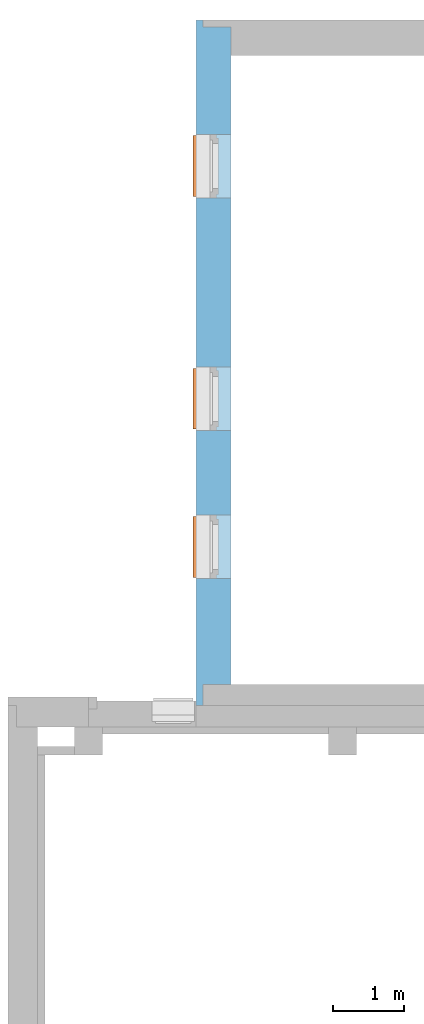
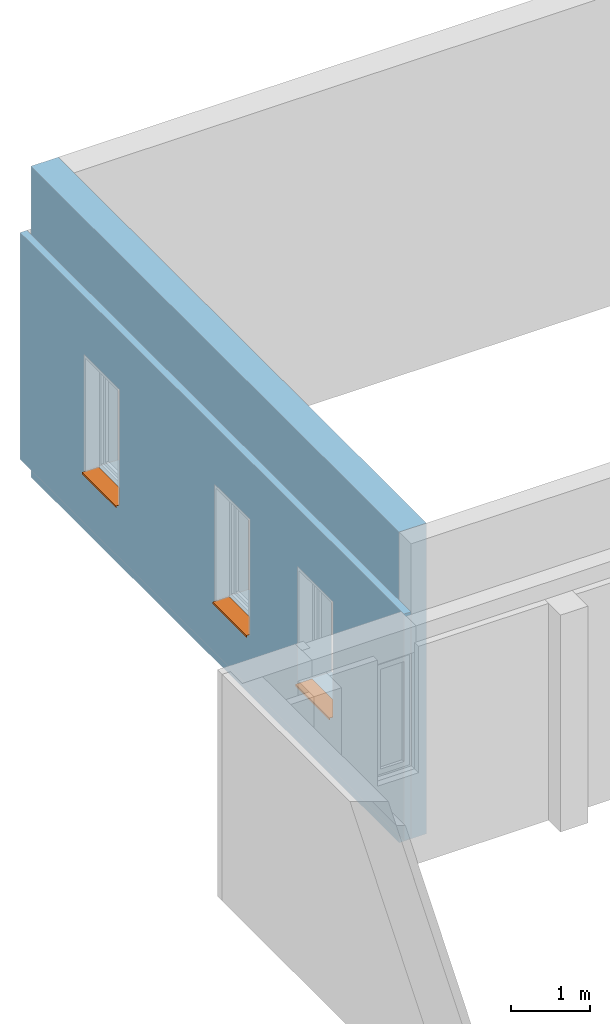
# One storey, part 36 of 37: 3 proxies, 3 openings, plus 1 element that does not belong to this part.
"""IFC4 building model written with IfcOpenShell, lengths in metres."""

from ifc_helpers import new_model, entity, si_unit, converted_unit, derived_unit, frame, origin, origin_with_axes, place, context, subcontext, project, spatial, polyline, outline, extrude, clip, bounded_halfspace, faceted_brep, source, transform, mapped, material, layer, layer_set, layer_usage, element, fill, save


model = new_model("IFC4")

# Units and contexts
model_context = context("Model", 3, precision=1e-05, world=origin())
body_context = subcontext(model_context, "Body", "Model", "MODEL_VIEW")
ifc_project = project(units=[si_unit("LENGTHUNIT", "METRE"), si_unit("AREAUNIT", "SQUARE_METRE"), si_unit("VOLUMEUNIT", "CUBIC_METRE"), si_unit("MASSUNIT", "GRAM", prefix="KILO"), converted_unit("PLANEANGLEUNIT", "DEGREE", entity("IfcPlaneAngleMeasure", 0.0174532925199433), si_unit("PLANEANGLEUNIT", "RADIAN"), dimensions=[0, 0, 0, 0, 0, 0, 0]), derived_unit("THERMALTRANSMITTANCEUNIT", [(si_unit("POWERUNIT", "WATT"), 1), (si_unit("THERMODYNAMICTEMPERATUREUNIT", "KELVIN"), -1), (si_unit("LENGTHUNIT", "METRE"), -2)]), derived_unit("VOLUMETRICFLOWRATEUNIT", [(si_unit("LENGTHUNIT", "METRE"), 3), (converted_unit("TIMEUNIT", "hour", entity("IfcTimeMeasure", 3600.0), si_unit("TIMEUNIT", "SECOND"), dimensions=[0, 0, 1, 0, 0, 0, 0]), -1), (si_unit("LENGTHUNIT", "METRE"), -1)])], contexts=[model_context])

# Site, building, storey
site_placement = place(None, origin())
site = spatial("IfcSite", under=ifc_project, at=site_placement, Name="3. ASŘ", CompositionType="ELEMENT")
building_placement = place(site_placement, origin())
building = spatial("IfcBuilding", under=site, at=building_placement, Name="Pavilon B", CompositionType="ELEMENT")
storey_placement = place(building_placement, origin())
storey = spatial("IfcBuildingStorey", under=building, at=storey_placement, Name="Půdorys 1.NP", CompositionType="ELEMENT", Elevation=0.0)

# Wall, openings, proxies
ifc_material_1 = material(Name="MINERÁLNÍ VATA")
ifc_layer_1 = layer(ifc_material_1, 0.1)
ifc_material_2 = material(Name="STÁVAJÍC KCE")
ifc_layer_2 = layer(ifc_material_2, 0.4)
ifc_layer_set = layer_set([ifc_layer_1, ifc_layer_2])
ifc_layer_usage = layer_usage(ifc_layer_set, "AXIS2", "POSITIVE", -0.1)
wall_placement = place(storey_placement, frame((-2.67999999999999, -5.58, -0.25), z_axis=(0.0, 0.0, 1.0), x_axis=(0.0, -1.0, 0.0)))
wall = element("IfcWall", 1, at=wall_placement, inside=storey, material=ifc_layer_usage, Name="STÁVAJÍCÍ KCE", context=body_context, shape_type="Clipping", body=[
    clip(clip(extrude(outline(polyline([(-9.72, 0.0), (0.0, 0.0), (0.0, 0.1), (-0.299999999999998, 0.1), (-0.299999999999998, 0.5), (-9.62, 0.5), (-9.62, 0.1), (-9.72, 0.1), (-9.72, 0.0)])), frame((9.72, 0.0, 0.0), z_axis=(0.0, 0.0, 1.0), x_axis=(1.0, 0.0, 0.0)), (0.0, 0.0, 1.0), 4.8), bounded_halfspace(frame((4.82666666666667, 0.066666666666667, 0.25), z_axis=(0.0, 0.0, 1.0), x_axis=(-1.0, 0.0, 0.0)), True, origin_with_axes(), polyline([(9.42, 0.1), (0.100000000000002, 0.1), (0.0, 0.1), (0.0, 0.0), (9.72, 0.0), (9.72, 0.1), (9.42, 0.1)]))), bounded_halfspace(frame((4.82666666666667, 0.066666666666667, 3.75), z_axis=(0.0, 0.0, -1.0), x_axis=(1.0, 0.0, 0.0)), True, origin_with_axes(), polyline([(0.0, 0.0), (9.72, 0.0), (9.72, 0.1), (9.42, 0.1), (0.100000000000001, 0.1), (0.0, 0.1), (0.0, 0.0)]))),
])
opening_1_placement = place(wall_placement, frame((7.02, 0.0, 1.05), z_axis=(0.0, 1.0, 0.0), x_axis=(0.0, 0.0, 1.0)))
opening_1 = element("IfcOpeningElement", 2, at=opening_1_placement, cuts=wall, Name="Okenní otvor", ObjectType="Opening", context=body_context, shape_type="SweptSolid", body=[
    extrude(outline(polyline([(0.0, 0.9), (1.8, 0.9), (1.8, 0.0), (0.0, 0.0), (0.0, 0.9)])), origin_with_axes(), (0.0, 0.0, 1.0), 0.1),
    extrude(outline(polyline([(0.0, 0.9), (1.8, 0.9), (1.8, 0.0), (0.0, 0.0), (0.0, 0.9)])), frame((0.0, 0.0, 0.1), z_axis=(0.0, 0.0, 1.0), x_axis=(1.0, 0.0, 0.0)), (0.0, 0.0, 1.0), 0.4),
])
opening_2_placement = place(wall_placement, frame((4.92, 0.0, 1.05), z_axis=(0.0, 1.0, 0.0), x_axis=(0.0, 0.0, 1.0)))
opening_2 = element("IfcOpeningElement", 3, at=opening_2_placement, cuts=wall, Name="Okenní otvor", ObjectType="Opening", context=body_context, shape_type="SweptSolid", body=[
    extrude(outline(polyline([(0.0, 0.9), (1.8, 0.9), (1.8, 0.0), (0.0, 0.0), (0.0, 0.9)])), origin_with_axes(), (0.0, 0.0, 1.0), 0.1),
    extrude(outline(polyline([(0.0, 0.9), (1.8, 0.9), (1.8, 0.0), (0.0, 0.0), (0.0, 0.9)])), frame((0.0, 0.0, 0.1), z_axis=(0.0, 0.0, 1.0), x_axis=(1.0, 0.0, 0.0)), (0.0, 0.0, 1.0), 0.4),
])
opening_3_placement = place(wall_placement, frame((1.62, 0.0, 1.05), z_axis=(0.0, 1.0, 0.0), x_axis=(0.0, 0.0, 1.0)))
opening_3 = element("IfcOpeningElement", 4, at=opening_3_placement, cuts=wall, Name="Okenní otvor", ObjectType="Opening", context=body_context, shape_type="SweptSolid", body=[
    extrude(outline(polyline([(0.0, 0.9), (1.8, 0.9), (1.8, 0.0), (0.0, 0.0), (0.0, 0.9)])), origin_with_axes(), (0.0, 0.0, 1.0), 0.1),
    extrude(outline(polyline([(0.0, 0.9), (1.8, 0.9), (1.8, 0.0), (0.0, 0.0), (0.0, 0.9)])), frame((0.0, 0.0, 0.1), z_axis=(0.0, 0.0, 1.0), x_axis=(1.0, 0.0, 0.0)), (0.0, 0.0, 1.0), 0.4),
])
ifc_material_3 = material(Name="PLECH")
shared_shape_1 = source(origin_with_axes(), body_context, "Body", "Brep", [
    faceted_brep([(0.0399999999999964, 4.54747350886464e-16, 0.0), (0.0399999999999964, 0.2, 0.0), (0.0399999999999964, 0.2, 0.005), (0.0399999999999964, 4.54747350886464e-16, 0.005), (0.859999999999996, 4.54747350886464e-16, 0.0), (0.859999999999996, 4.54747350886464e-16, 0.005), (0.859999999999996, 0.200000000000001, 0.005), (0.859999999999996, 0.200000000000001, 0.0), (0.0199999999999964, 4.54747350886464e-16, 0.0), (0.0199999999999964, -0.0349999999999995, 0.0), (0.879999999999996, -0.0349999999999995, 0.0), (0.879999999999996, 4.54747350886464e-16, 0.0), (0.879999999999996, 4.54747350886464e-16, 0.005), (0.879999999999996, -0.0399999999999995, 0.005), (0.0199999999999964, -0.0399999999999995, 0.005), (0.0199999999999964, 4.54747350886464e-16, 0.005), (0.0199999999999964, -0.0399999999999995, -0.025), (0.0199999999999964, -0.0349999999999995, -0.025), (0.879999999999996, -0.0349999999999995, -0.025), (0.879999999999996, -0.0399999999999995, -0.025)], [[[0, 1, 2, 3]], [[4, 5, 6, 7]], [[1, 0, 8, 9, 10, 11, 4, 7]], [[2, 1, 7, 6]], [[3, 2, 6, 5, 12, 13, 14, 15]], [[8, 15, 14, 16, 17, 9]], [[11, 10, 18, 19, 13, 12]], [[15, 8, 0, 3]], [[5, 4, 11, 12]], [[16, 14, 13, 19]], [[17, 16, 19, 18]], [[9, 17, 18, 10]]], orient=[[False], [False], [False], [False], [False], [False], [False], [False], [False], [False], [False], [False]]),
    faceted_brep([(0.0199999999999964, 4.54747350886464e-16, 0.0), (0.0199999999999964, 0.2, 0.0), (0.0199999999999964, 0.2, 0.005), (0.0199999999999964, 4.54747350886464e-16, 0.005), (0.0399999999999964, 4.54747350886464e-16, 0.0), (0.0399999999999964, 4.54747350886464e-16, 0.005), (0.0399999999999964, 0.2, 0.005), (0.0399999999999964, 0.2, 0.0)], [[[0, 1, 2, 3]], [[4, 5, 6, 7]], [[1, 0, 4, 7]], [[2, 1, 7, 6]], [[3, 2, 6, 5]], [[0, 3, 5, 4]]], orient=[[False], [False], [False], [False], [False], [False]]),
    faceted_brep([(0.859999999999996, 4.54747350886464e-16, 0.0), (0.859999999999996, 0.2, 0.0), (0.859999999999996, 0.2, 0.005), (0.859999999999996, 4.54747350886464e-16, 0.005), (0.879999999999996, 4.54747350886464e-16, 0.0), (0.879999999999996, 4.54747350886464e-16, 0.005), (0.879999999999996, 0.2, 0.005), (0.879999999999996, 0.2, 0.0)], [[[0, 1, 2, 3]], [[4, 5, 6, 7]], [[1, 0, 4, 7]], [[2, 1, 7, 6]], [[3, 2, 6, 5]], [[0, 3, 5, 4]]], orient=[[False], [False], [False], [False], [False], [False]]),
])
proxy_1_placement = place(opening_1_placement, frame((0.0, 0.0, 0.0), z_axis=(1.0, 0.0, 0.0), x_axis=(0.0, 1.0, 0.0)))
proxy_1 = element("IfcBuildingElementProxy", 5, at=proxy_1_placement, inside=storey, material=ifc_material_3, Name="Parapet vnější", context=body_context, shape_type="MappedRepresentation", body=[
    mapped(shared_shape_1, transform((0.0, 0.0, 0.0), x_axis=(1.0, 0.0, 0.0), y_axis=(0.0, 1.0, 0.0), z_axis=(0.0, 0.0, 1.0), scale=1.0)),
])
fill(opening_1, proxy_1)
ifc_material_4 = material(Name="PLECH")
shared_shape_2 = source(origin_with_axes(), body_context, "Body", "Brep", [
    faceted_brep([(0.0399999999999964, 9.09494701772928e-16, 0.0), (0.0399999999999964, 0.200000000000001, 0.0), (0.0399999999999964, 0.200000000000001, 0.005), (0.0399999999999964, 9.09494701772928e-16, 0.005), (0.859999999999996, 9.09494701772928e-16, 0.0), (0.859999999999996, 9.09494701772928e-16, 0.005), (0.859999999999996, 0.200000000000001, 0.005), (0.859999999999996, 0.200000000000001, 0.0), (0.0199999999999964, 9.09494701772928e-16, 0.0), (0.0199999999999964, -0.0349999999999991, 0.0), (0.879999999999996, -0.0349999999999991, 0.0), (0.879999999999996, 9.09494701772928e-16, 0.0), (0.879999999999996, 9.09494701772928e-16, 0.005), (0.879999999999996, -0.0399999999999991, 0.005), (0.0199999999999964, -0.0399999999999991, 0.005), (0.0199999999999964, 9.09494701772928e-16, 0.005), (0.0199999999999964, -0.0399999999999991, -0.025), (0.0199999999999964, -0.0349999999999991, -0.025), (0.879999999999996, -0.0349999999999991, -0.025), (0.879999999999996, -0.0399999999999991, -0.025)], [[[0, 1, 2, 3]], [[4, 5, 6, 7]], [[1, 0, 8, 9, 10, 11, 4, 7]], [[2, 1, 7, 6]], [[3, 2, 6, 5, 12, 13, 14, 15]], [[8, 15, 14, 16, 17, 9]], [[11, 10, 18, 19, 13, 12]], [[15, 8, 0, 3]], [[5, 4, 11, 12]], [[16, 14, 13, 19]], [[17, 16, 19, 18]], [[9, 17, 18, 10]]], orient=[[False], [False], [False], [False], [False], [False], [False], [False], [False], [False], [False], [False]]),
    faceted_brep([(0.0199999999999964, 9.09494701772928e-16, 0.0), (0.0199999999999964, 0.200000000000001, 0.0), (0.0199999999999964, 0.200000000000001, 0.005), (0.0199999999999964, 9.09494701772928e-16, 0.005), (0.0399999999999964, 9.09494701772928e-16, 0.0), (0.0399999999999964, 9.09494701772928e-16, 0.005), (0.0399999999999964, 0.200000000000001, 0.005), (0.0399999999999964, 0.200000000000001, 0.0)], [[[0, 1, 2, 3]], [[4, 5, 6, 7]], [[1, 0, 4, 7]], [[2, 1, 7, 6]], [[3, 2, 6, 5]], [[0, 3, 5, 4]]], orient=[[False], [False], [False], [False], [False], [False]]),
    faceted_brep([(0.859999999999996, 9.09494701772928e-16, 0.0), (0.859999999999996, 0.200000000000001, 0.0), (0.859999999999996, 0.200000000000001, 0.005), (0.859999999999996, 9.09494701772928e-16, 0.005), (0.879999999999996, 9.09494701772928e-16, 0.0), (0.879999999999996, 9.09494701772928e-16, 0.005), (0.879999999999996, 0.200000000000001, 0.005), (0.879999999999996, 0.200000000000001, 0.0)], [[[0, 1, 2, 3]], [[4, 5, 6, 7]], [[1, 0, 4, 7]], [[2, 1, 7, 6]], [[3, 2, 6, 5]], [[0, 3, 5, 4]]], orient=[[False], [False], [False], [False], [False], [False]]),
])
proxy_2_placement = place(opening_2_placement, frame((0.0, 0.0, 0.0), z_axis=(1.0, 0.0, 0.0), x_axis=(0.0, 1.0, 0.0)))
proxy_2 = element("IfcBuildingElementProxy", 6, at=proxy_2_placement, inside=storey, material=ifc_material_4, Name="Parapet vnější", context=body_context, shape_type="MappedRepresentation", body=[
    mapped(shared_shape_2, transform((0.0, 0.0, 0.0), x_axis=(1.0, 0.0, 0.0), y_axis=(0.0, 1.0, 0.0), z_axis=(0.0, 0.0, 1.0), scale=1.0)),
])
fill(opening_2, proxy_2)
ifc_material_5 = material(Name="PLECH")
shared_shape_3 = source(origin_with_axes(), body_context, "Body", "Brep", [
    faceted_brep([(0.0399999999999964, 9.09494701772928e-16, 0.0), (0.0399999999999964, 0.200000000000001, 0.0), (0.0399999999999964, 0.200000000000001, 0.005), (0.0399999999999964, 9.09494701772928e-16, 0.005), (0.859999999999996, 9.09494701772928e-16, 0.0), (0.859999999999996, 9.09494701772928e-16, 0.005), (0.859999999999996, 0.200000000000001, 0.005), (0.859999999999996, 0.200000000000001, 0.0), (0.0199999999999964, 9.09494701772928e-16, 0.0), (0.0199999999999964, -0.0349999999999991, 0.0), (0.879999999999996, -0.0349999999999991, 0.0), (0.879999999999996, 9.09494701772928e-16, 0.0), (0.879999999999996, 9.09494701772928e-16, 0.005), (0.879999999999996, -0.0399999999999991, 0.005), (0.0199999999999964, -0.0399999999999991, 0.005), (0.0199999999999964, 9.09494701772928e-16, 0.005), (0.0199999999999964, -0.0399999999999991, -0.025), (0.0199999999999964, -0.0349999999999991, -0.025), (0.879999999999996, -0.0349999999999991, -0.025), (0.879999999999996, -0.0399999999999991, -0.025)], [[[0, 1, 2, 3]], [[4, 5, 6, 7]], [[1, 0, 8, 9, 10, 11, 4, 7]], [[2, 1, 7, 6]], [[3, 2, 6, 5, 12, 13, 14, 15]], [[8, 15, 14, 16, 17, 9]], [[11, 10, 18, 19, 13, 12]], [[15, 8, 0, 3]], [[5, 4, 11, 12]], [[16, 14, 13, 19]], [[17, 16, 19, 18]], [[9, 17, 18, 10]]], orient=[[False], [False], [False], [False], [False], [False], [False], [False], [False], [False], [False], [False]]),
    faceted_brep([(0.0199999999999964, 9.09494701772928e-16, 0.0), (0.0199999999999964, 0.200000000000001, 0.0), (0.0199999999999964, 0.200000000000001, 0.005), (0.0199999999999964, 9.09494701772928e-16, 0.005), (0.0399999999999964, 9.09494701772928e-16, 0.0), (0.0399999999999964, 9.09494701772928e-16, 0.005), (0.0399999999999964, 0.200000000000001, 0.005), (0.0399999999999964, 0.200000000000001, 0.0)], [[[0, 1, 2, 3]], [[4, 5, 6, 7]], [[1, 0, 4, 7]], [[2, 1, 7, 6]], [[3, 2, 6, 5]], [[0, 3, 5, 4]]], orient=[[False], [False], [False], [False], [False], [False]]),
    faceted_brep([(0.859999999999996, 9.09494701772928e-16, 0.0), (0.859999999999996, 0.200000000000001, 0.0), (0.859999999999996, 0.200000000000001, 0.005), (0.859999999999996, 9.09494701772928e-16, 0.005), (0.879999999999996, 9.09494701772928e-16, 0.0), (0.879999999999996, 9.09494701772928e-16, 0.005), (0.879999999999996, 0.200000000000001, 0.005), (0.879999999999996, 0.200000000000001, 0.0)], [[[0, 1, 2, 3]], [[4, 5, 6, 7]], [[1, 0, 4, 7]], [[2, 1, 7, 6]], [[3, 2, 6, 5]], [[0, 3, 5, 4]]], orient=[[False], [False], [False], [False], [False], [False]]),
])
proxy_3_placement = place(opening_3_placement, frame((0.0, 0.0, 0.0), z_axis=(1.0, 0.0, 0.0), x_axis=(0.0, 1.0, 0.0)))
proxy_3 = element("IfcBuildingElementProxy", 7, at=proxy_3_placement, inside=storey, material=ifc_material_5, Name="Parapet vnější", context=body_context, shape_type="MappedRepresentation", body=[
    mapped(shared_shape_3, transform((0.0, 0.0, 0.0), x_axis=(1.0, 0.0, 0.0), y_axis=(0.0, 1.0, 0.0), z_axis=(0.0, 0.0, 1.0), scale=1.0)),
])
fill(opening_3, proxy_3)

save(model, "model.ifc")
